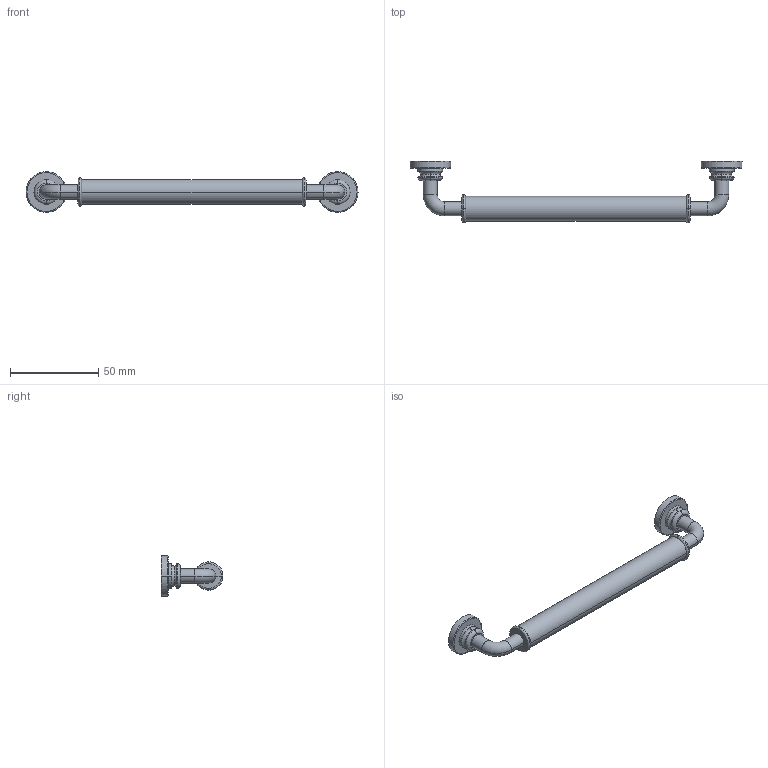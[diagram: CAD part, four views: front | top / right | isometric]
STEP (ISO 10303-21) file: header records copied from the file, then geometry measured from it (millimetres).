
FILE_DESCRIPTION( ( '' ), '1' );
FILE_NAME( 'D:/1.AUTOCAD EXPORT/Group 10/sheet_10_1/9132271.stp', '2013-10-21T06:33:08', ( '' ), ( '' ), ' ', ' ', ' ' );
FILE_SCHEMA( ( 'automotive_design' ) );
Length unit declared in the file: millimetre
Products named in the file (1): 1
Bounding box: 188 x 35 x 23 mm (x, y, z)
Volume: 27878 mm3; surface area: 10525.4 mm2
Topology: 1 solids, 1 shells, 95 faces, 230 edges, 141 vertices
Faces by surface type: torus 40, cone 24, cylinder 22, plane 9
Entity records: 5557 total; most frequent: DIRECTION 598, CARTESIAN_POINT 545, STYLED_ITEM 467, PRESENTATION_STYLE_ASSIGNMENT 467, COLOUR_RGB 467, ORIENTED_EDGE 460, AXIS2_PLACEMENT_3D 276, EDGE_CURVE 230
